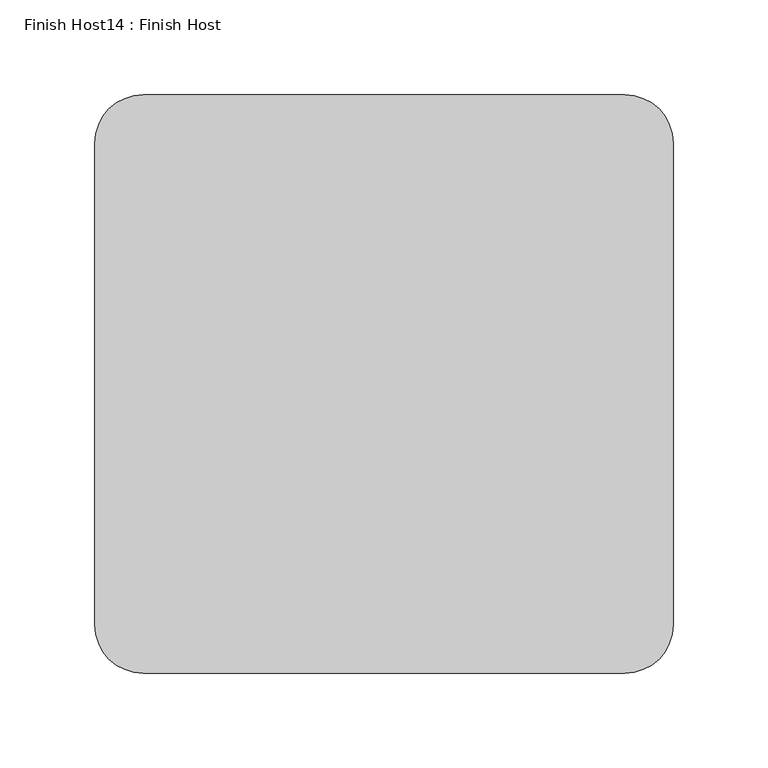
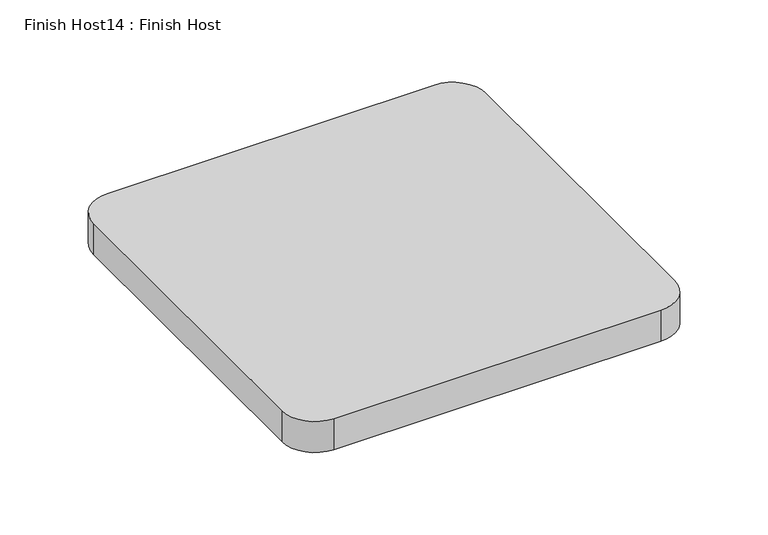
"""IFC4 building model written with IfcOpenShell, lengths in millimetres: proxy geometry, Finish Host14 : Finish Host."""

from ifc_helpers import new_model, si_unit, point, frame_2d, origin, origin_with_axes, place, context, project, spatial, polyline, circle_curve, trimmed, segment, composite_curve, outline, extrude, source, transform, mapped, element, save


def finish_host14_finish_host_65f983b4(model_context):
    return source(origin(), model_context, "Body", "SweptSolid", [
        extrude(outline(composite_curve([segment(polyline([(3018.9649374, 2023.3667263), (3018.9649374, 2277.3667263)]), True, "CONTINUOUS"), segment(trimmed(circle_curve(frame_2d((3044.3649374, 2277.3667263)), 25.4), [point((3018.9649374, 2277.3667263))], [point((3044.3649374, 2302.7667263))], False, "CARTESIAN"), True, "CONTINUOUS"), segment(polyline([(3044.3649374, 2302.7667263), (3298.3649374, 2302.7667263)]), True, "CONTINUOUS"), segment(trimmed(circle_curve(frame_2d((3298.3649374, 2277.3667263)), 25.4), [point((3298.3649374, 2302.7667263))], [point((3323.7649374, 2277.3667263))], False, "CARTESIAN"), True, "CONTINUOUS"), segment(polyline([(3323.7649374, 2277.3667263), (3323.7649374, 2023.3667263)]), True, "CONTINUOUS"), segment(trimmed(circle_curve(frame_2d((3298.3649374, 2023.3667263)), 25.4), [point((3323.7649374, 2023.3667263))], [point((3298.3649374, 1997.9667263))], False, "CARTESIAN"), True, "CONTINUOUS"), segment(polyline([(3298.3649374, 1997.9667263), (3044.3649374, 1997.9667263)]), True, "CONTINUOUS"), segment(trimmed(circle_curve(frame_2d((3044.3649374, 2023.3667263)), 25.4), [point((3044.3649374, 1997.9667263))], [point((3018.9649374, 2023.3667263))], False, "CARTESIAN"), True, "CONTINUOUS")], self_intersect=False)), origin_with_axes(), (0.0, 0.0, 1.0), 25.4),
    ])


if __name__ == "__main__":
    model = new_model("IFC4")
    model_context = context("Model", 3, world=origin())
    ifc_project = project(units=[si_unit("LENGTHUNIT", "METRE", prefix="MILLI")], contexts=[model_context])
    site = spatial("IfcSite", under=ifc_project)
    building = spatial("IfcBuilding", under=site)
    placement = place(None, origin())
    finish_host14_finish_host_shape = finish_host14_finish_host_65f983b4(model_context)
    element("IfcBuildingElementProxy", 1, Name="Finish Host14 : Finish Host", ObjectType="Finish Host14 : Finish Host", at=placement, inside=building, context=model_context, shape_type="MappedRepresentation", body=[
        mapped(finish_host14_finish_host_shape, transform((0.0, 0.0, 0.0), x_axis=(1.0, 0.0, 0.0), y_axis=(0.0, 1.0, 0.0), z_axis=(0.0, 0.0, 1.0))),
    ])
    save(model, "model.ifc")
